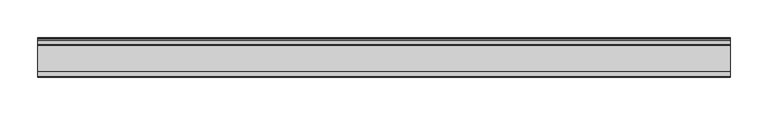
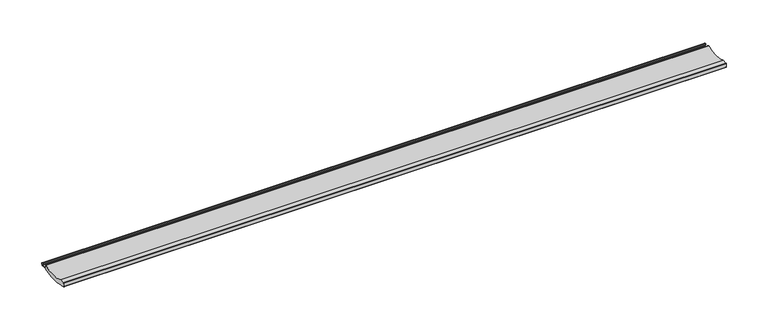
"""IFC4 building model written with IfcOpenShell, lengths in millimetres: proxy geometry, Weiku - Montante -  aleta persiana 02.2.01.305 : Weiku - Montante -  aleta persiana 02.2.01.305."""

from ifc_helpers import new_model, si_unit, point, frame, frame_2d, origin, place, context, project, spatial, polyline, circle_curve, trimmed, segment, composite_curve, outline, extrude, source, transform, mapped, element, save


def generic_models_4da842aa(model_context):
    return source(origin(), model_context, "Body", "SweptSolid", [
        extrude(outline(composite_curve([segment(trimmed(circle_curve(frame_2d((42.5, 4.6694318)), 0.5), [point((42.3231022, 5.1370932))], [point((43.0, 4.6694318))], False, "CARTESIAN"), True, "CONTINUOUS"), segment(polyline([(43.0, 4.6694318), (43.0, 0.8), (49.865, 0.8)]), True, "CONTINUOUS"), segment(trimmed(circle_curve(frame_2d((49.865, 2.175)), 1.375), [point((49.865, 0.8))], [point((48.8043398, 3.05))], True, "CARTESIAN"), True, "CONTINUOUS"), segment(polyline([(48.8043398, 3.05), (48.8043398, 4.35), (49.865, 4.35)]), True, "CONTINUOUS"), segment(trimmed(circle_curve(frame_2d((49.865, 2.175)), 2.175), [point((49.865, 4.35))], [point((49.865, 0.0))], False, "CARTESIAN"), True, "CONTINUOUS"), segment(polyline([(49.865, 0.0), (43.0, 0.0), (43.0, -0.7827712)]), True, "CONTINUOUS"), segment(trimmed(circle_curve(frame_2d((21.6253298, 78.0935981)), 81.7212223), [point((43.0, -0.7827712))], [point((29.1695632, -3.2786497))], False, "CARTESIAN"), True, "CONTINUOUS"), segment(trimmed(circle_curve(frame_2d((28.6558102, -3.9281482)), 0.8281247), [point((29.1695632, -3.2786497))], [point((28.03902, -3.375554))], True, "CARTESIAN"), True, "CONTINUOUS"), segment(trimmed(circle_curve(frame_2d((21.6253298, 78.0935981)), 81.7212223), [point((28.03902, -3.375554))], [point((14.8747096, -3.3483278))], False, "CARTESIAN"), True, "CONTINUOUS"), segment(trimmed(circle_curve(frame_2d((14.2816485, -3.8467778)), 0.7747088), [point((14.8747096, -3.3483278))], [point((13.7866712, -3.2508153))], True, "CARTESIAN"), True, "CONTINUOUS"), segment(trimmed(circle_curve(frame_2d((21.6253298, 78.0935981)), 81.7212223), [point((13.7866712, -3.2508153))], [point((0.5941175, -0.875043))], False, "CARTESIAN"), True, "CONTINUOUS"), segment(trimmed(circle_curve(frame_2d((0.8, -0.101989)), 0.8), [point((0.5941175, -0.875043))], [point((0.0, -0.101989))], False, "CARTESIAN"), True, "CONTINUOUS"), segment(polyline([(0.0, -0.101989), (0.0, 4.604273)]), True, "CONTINUOUS"), segment(trimmed(circle_curve(frame_2d((0.6784053, 4.604273)), 0.6784053), [point((0.0, 4.604273))], [point((0.6784053, 5.2826784))], False, "CARTESIAN"), True, "CONTINUOUS"), segment(polyline([(0.6784053, 5.2826784), (7.0094119, 5.2826784)]), True, "CONTINUOUS"), segment(trimmed(circle_curve(frame_2d((24.8563258, 51.3136844)), 49.3696856), [point((7.0094119, 5.2826784))], [point((42.3231022, 5.1370932))], True, "CARTESIAN"), True, "CONTINUOUS")], self_intersect=False)), frame((-458.0, 0.0, 0.0), z_axis=(1.0, 0.0, 0.0), x_axis=(0.0, 1.0, 0.0)), (0.0, 0.0, 1.0), 916.0),
    ])


if __name__ == "__main__":
    model = new_model("IFC4")
    model_context = context("Model", 3, world=origin())
    ifc_project = project(units=[si_unit("LENGTHUNIT", "METRE", prefix="MILLI")], contexts=[model_context])
    site = spatial("IfcSite", under=ifc_project)
    building = spatial("IfcBuilding", under=site)
    placement = place(None, origin())
    generic_models_shape = generic_models_4da842aa(model_context)
    element("IfcBuildingElementProxy", 1, Name="Weiku - Montante -  aleta persiana 02.2.01.305 : Weiku - Montante -  aleta persiana 02.2.01.305", ObjectType="Weiku - Montante -  aleta persiana 02.2.01.305 : Weiku - Montante -  aleta persiana 02.2.01.305", at=placement, inside=building, context=model_context, shape_type="MappedRepresentation", body=[
        mapped(generic_models_shape, transform((0.0, 0.0, 0.0), x_axis=(1.0, 0.0, 0.0), y_axis=(0.0, 1.0, 0.0), z_axis=(0.0, 0.0, 1.0))),
    ])
    save(model, "model.ifc")
